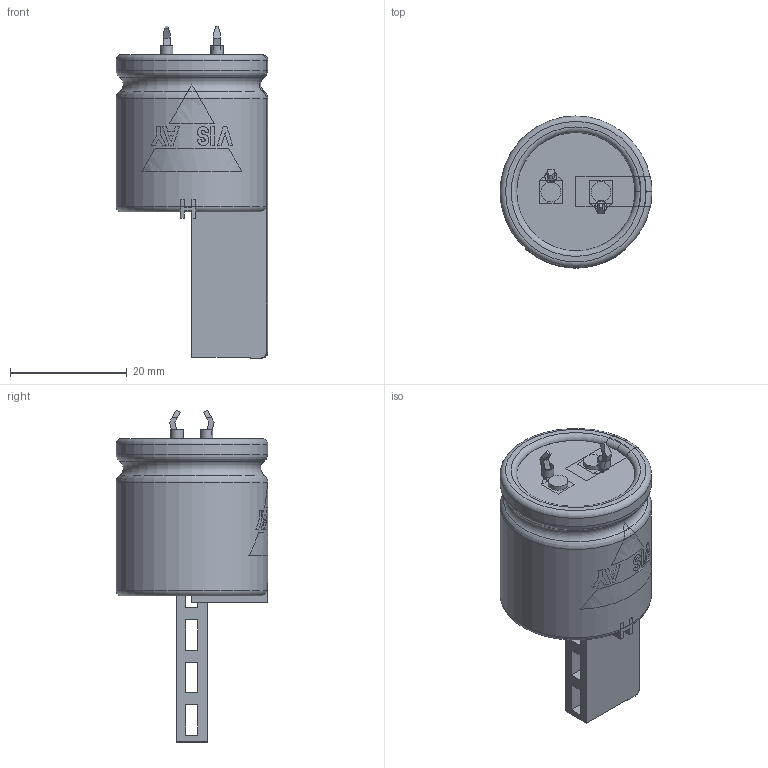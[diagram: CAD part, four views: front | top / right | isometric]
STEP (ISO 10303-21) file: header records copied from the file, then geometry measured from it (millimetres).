
FILE_DESCRIPTION(('FreeCAD Model'),'2;1');
FILE_NAME( 'C:/Users/Gebruiker/Documents/FreeCAD/SnapIn_25x25_2pin_4.0.step', '2020-11-12T20:01:14',('Author'),(''), 'Open CASCADE STEP processor 6.8','FreeCAD','Unknown');
FILE_SCHEMA(('AUTOMOTIVE_DESIGN_CC2 { 1 2 10303 214 -1 1 5 4 }'));
Length unit declared in the file: millimetre
Products named in the file (9): ASSEMBLY; TerminalMin; TerminalPlus; PCBHoles; Disc; BottomInsulation; Can3D; InkMinusBar; InkLogo
Assembly tree (8 placements, depth 2):
  ASSEMBLY
    TerminalMin
    TerminalPlus
    PCBHoles
    Disc
    BottomInsulation
    Can3D
    InkMinusBar
    InkLogo
Bounding box: 26.05 x 26.05 x 56.95 mm (x, y, z)
Volume: 3849.8 mm3; surface area: 9906.6 mm2
Topology: 15 solids, 20 shells, 202 faces, 518 edges, 339 vertices
Faces by surface type: plane 149, cylinder 29, torus 20, cone 4
Full cylindrical faces by diameter (mm): 2 x2, 2.1 x2, 3.4 x2, 20.3 x1, 20.8 x2, 26 x2
Entity records: 23254 total; most frequent: CARTESIAN_POINT 11787, DIRECTION 1797, ORIENTED_EDGE 1024, PCURVE 1024, DEFINITIONAL_REPRESENTATION 1024, LINE 1011, VECTOR 1011, EDGE_CURVE 516
